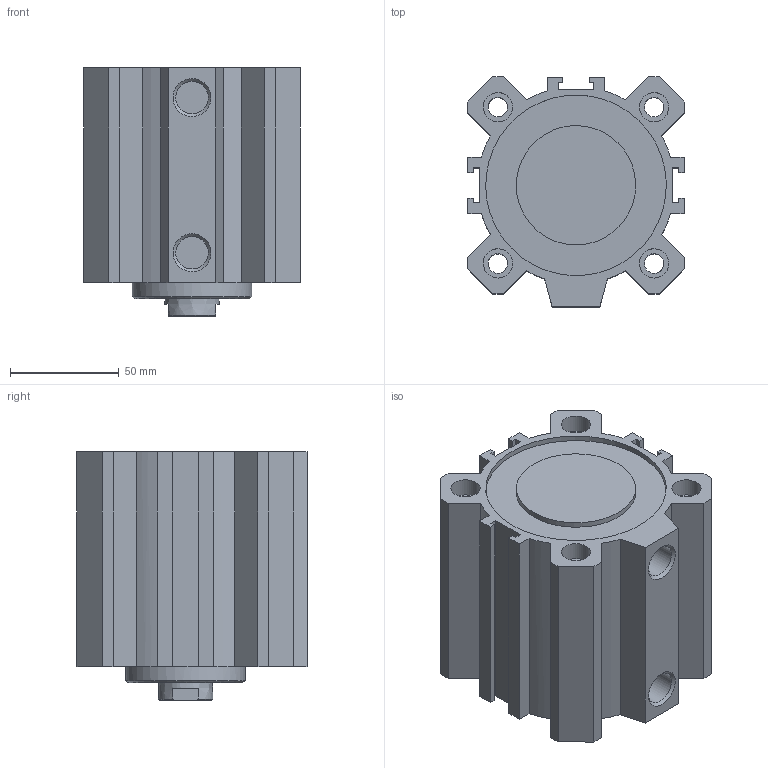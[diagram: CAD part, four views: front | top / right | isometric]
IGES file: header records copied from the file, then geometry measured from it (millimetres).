
Global section: file name: 1511_80_0050; native system: Autodesk Inventor 2014; preprocessor: unknown; author: A. Manieri; date: 20160824.142212; units: millimetre
Bounding box: 100 x 106 x 114.5 mm (x, y, z)
Volume: 586094.9 mm3; surface area: 134464.5 mm2
Topology: 2 solids, 2 shells, 119 faces, 307 edges, 210 vertices
Faces by surface type: bspline 119
